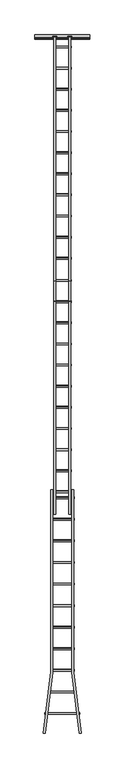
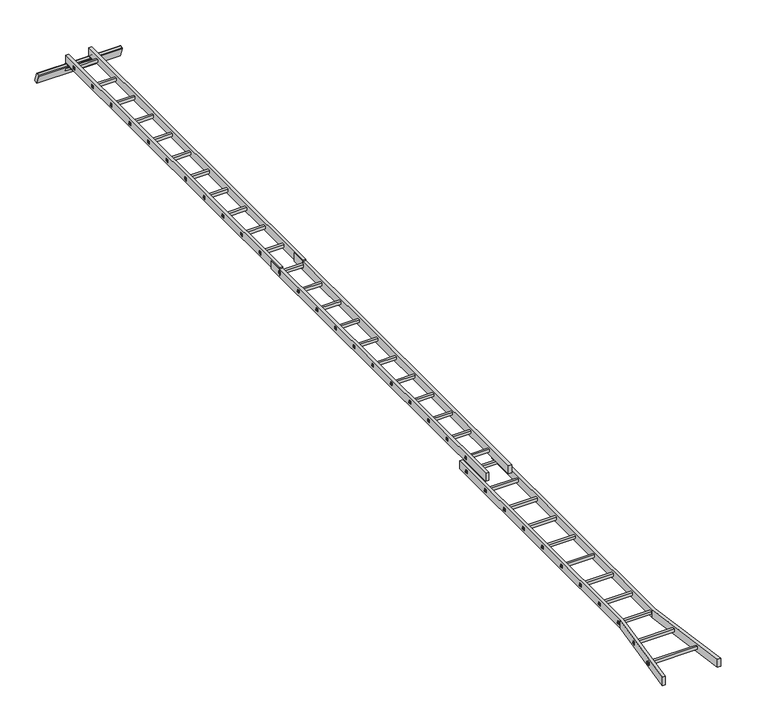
"""IFC4 building model written with IfcOpenShell, lengths in millimetres: proxy geometry, 9_Topaccess_Trap_3delige1 : 9_Topaccess_Trap_3delige1."""

from ifc_helpers import new_model, si_unit, point, frame, frame_2d, origin, place, context, project, spatial, polyline, circle_curve, trimmed, segment, composite_curve, outline, extrude, source, transform, mapped, element, save
from ifc_brep_helpers import plane_surface, cylinder_surface, advanced_brep


def generic_models_11501db7(model_context):
    return source(origin(), model_context, "Body", "SolidModel", [
        advanced_brep(
        [(415.7084157, 5443.0642979, 10.4304204), (415.7084157, 5480.6520028, 24.1112261), (415.7084157, 5444.9108978, 122.309105), (415.7084157, 5433.3754829, 127.6881573), (415.7084157, 5412.7022453, 120.1637141), (415.7084157, 5407.323193, 108.6282992), (-484.2915843, 5443.0642979, 10.4304204), (-484.2915843, 5407.323193, 108.6282992), (-484.2915843, 5412.7022453, 120.1637141), (-484.2915843, 5433.3754829, 127.6881573), (-484.2915843, 5444.9108978, 122.309105), (-484.2915843, 5480.6520028, 24.1112261), (118.0, 5462.6925349, 73.4544585), (118.0, 5448.1464663, 113.4194534), (59.0, 5448.1464663, 113.4194534), (59.0, 5462.6925349, 73.4544585), (-129.0, 5462.6925349, 73.4544585), (-129.0, 5448.1464663, 113.4194534), (-188.0, 5448.1464663, 113.4194534), (-188.0, 5462.6925349, 73.4544585), (118.0, 5410.5587615, 99.7386477), (118.0, 5425.1048301, 59.7736528), (59.0, 5425.1048301, 59.7736528), (59.0, 5410.5587615, 99.7386477), (-129.0, 5410.5587615, 99.7386477), (-129.0, 5425.1048301, 59.7736528), (-188.0, 5425.1048301, 59.7736528), (-188.0, 5410.5587615, 99.7386477)],
        [
            (0, 1),
            (1, 2),
            (2, 3, circle_curve(frame((415.7084157, 5436.4536642, 119.2309237), z_axis=(1.0, 0.0, 0.0), x_axis=(0.0, 1.0, 0.0)), 9.0)),
            (3, 4),
            (4, 5, circle_curve(frame((415.7084157, 5415.7804265, 111.7064805), z_axis=(1.0, 0.0, 0.0), x_axis=(0.0, 1.0, 0.0)), 9.0)),
            (5, 0),
            (6, 7),
            (7, 8, circle_curve(frame((-484.2915843, 5415.7804265, 111.7064805), z_axis=(-1.0, 0.0, 0.0), x_axis=(0.0, 1.0, 0.0)), 9.0)),
            (8, 9),
            (9, 10, circle_curve(frame((-484.2915843, 5436.4536642, 119.2309237), z_axis=(-1.0, 0.0, 0.0), x_axis=(0.0, 1.0, 0.0)), 9.0)),
            (10, 11),
            (11, 6),
            (0, 6),
            (11, 1),
            (10, 2),
            (12, 13),
            (13, 14),
            (14, 15),
            (15, 12),
            (16, 17),
            (17, 18),
            (18, 19),
            (19, 16),
            (3, 9),
            (8, 4),
            (5, 7),
            (20, 21),
            (21, 22),
            (22, 23),
            (23, 20),
            (24, 25),
            (25, 26),
            (26, 27),
            (27, 24),
            (20, 13),
            (12, 21),
            (22, 15),
            (14, 23),
            (24, 17),
            (16, 25),
            (26, 19),
            (18, 27),
        ],
        [
            plane_surface(frame((415.7084157, 5480.6520028, 24.1112261), z_axis=(1.0, 0.0, 0.0), x_axis=(0.0, 0.9396926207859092, 0.34202014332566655))),
            plane_surface(frame((-484.2915843, 5480.6520028, 24.1112261), z_axis=(-1.0, 0.0, 0.0), x_axis=(0.0, -0.9396926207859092, -0.34202014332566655))),
            plane_surface(frame((415.7084157, 5443.0642979, 10.4304204), z_axis=(0.0, 0.34202014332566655, -0.9396926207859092), x_axis=(-1.0, 0.0, 0.0))),
            plane_surface(frame((415.7084157, 5480.6520028, 24.1112261), z_axis=(0.0, 0.939692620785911, 0.3420201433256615), x_axis=(-1.0, 0.0, 0.0))),
            plane_surface(frame((415.7084157, 5433.3754829, 127.6881573), z_axis=(0.0, -0.34202014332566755, 0.9396926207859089), x_axis=(-1.0, 0.0, 0.0))),
            plane_surface(frame((415.7084157, 5407.323193, 108.6282992), z_axis=(0.0, -0.9396926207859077, -0.3420201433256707), x_axis=(-1.0, 0.0, 0.0))),
            cylinder_surface(frame((-484.2915843, 5436.4536642, 119.2309237), z_axis=(1.0, 0.0, 0.0), x_axis=(0.0, 1.0, 0.0)), 9.0),
            cylinder_surface(frame((-484.2915843, 5415.7804265, 111.7064805), z_axis=(1.0, 0.0, 0.0), x_axis=(0.0, 1.0, 0.0)), 9.0),
            plane_surface(frame((118.0, 5410.5587615, 99.7386477), z_axis=(-1.0, 0.0, 0.0), x_axis=(0.0, 0.3420201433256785, -0.9396926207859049))),
            plane_surface(frame((59.0, 5410.5587615, 99.7386477), z_axis=(1.0, 0.0, 0.0), x_axis=(0.0, -0.3420201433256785, 0.9396926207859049))),
            plane_surface(frame((118.0, 5425.1048301, 59.7736528), z_axis=(0.0, -0.3420201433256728, 0.939692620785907), x_axis=(-1.0, 0.0, 0.0))),
            plane_surface(frame((118.0, 5448.1464663, 113.4194534), z_axis=(0.0, 0.34202014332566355, -0.9396926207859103), x_axis=(-1.0, 0.0, 0.0))),
            plane_surface(frame((-129.0, 5440.3788291, 10.5922647), z_axis=(-1.0000000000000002, 0.0, 0.0), x_axis=(0.0, 0.3420201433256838, -0.939692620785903))),
            plane_surface(frame((-188.0, 5440.3788291, 10.5922647), z_axis=(1.0000000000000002, 0.0, 0.0), x_axis=(0.0, -0.3420201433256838, 0.939692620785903))),
            plane_surface(frame((-129.0, 5422.7855172, 58.9294919), z_axis=(0.0, -0.3420201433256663, 0.9396926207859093), x_axis=(-1.0, 0.0, 0.0))),
            plane_surface(frame((-129.0, 5448.1464663, 113.4194534), z_axis=(0.0, 0.34202014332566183, -0.9396926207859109), x_axis=(-1.0, 0.0, 0.0))),
        ],
        [
            (0, [[1, 2, 3, 4, 5, 6]]),
            (1, [[7, 8, 9, 10, 11, 12]]),
            (2, [[-1, 13, -12, 14]]),
            (3, [[-2, -14, -11, 15], [16, 17, 18, 19], [20, 21, 22, 23]]),
            (4, [[-4, 24, -9, 25]]),
            (5, [[-6, 26, -7, -13], [27, 28, 29, 30], [31, 32, 33, 34]]),
            (6, [[-3, -15, -10, -24]]),
            (7, [[-5, -25, -8, -26]]),
            (8, [[35, -16, 36, -27]]),
            (9, [[37, -18, 38, -29]]),
            (10, [[-36, -19, -37, -28]]),
            (11, [[-35, -30, -38, -17]]),
            (12, [[39, -20, 40, -31]]),
            (13, [[41, -22, 42, -33]]),
            (14, [[-40, -23, -41, -32]]),
            (15, [[-39, -34, -42, -21]]),
        ],
    ),
        extrude(outline(composite_curve([segment(polyline([(5434.6941242, 131.0), (5314.6941242, 131.0), (5314.6941242, 134.0), (5434.95576, 134.0)]), True, "CONTINUOUS"), segment(trimmed(circle_curve(frame_2d((5431.3850458, 112.9)), 21.4), [point((5434.95576, 134.0))], [point((5439.8359404, 93.2393189))], False, "CARTESIAN"), True, "CONTINUOUS"), segment(polyline([(5439.8359404, 93.2393189), (5411.4941242, 93.2393189), (5411.4941242, 96.2393189), (5439.1941242, 96.2393189)]), True, "CONTINUOUS"), segment(trimmed(circle_curve(frame_2d((5431.3850458, 112.9)), 18.4), [point((5439.1941242, 96.2393189))], [point((5434.6941242, 131.0))], True, "CARTESIAN"), True, "CONTINUOUS")], self_intersect=False)), frame((72.0, 0.0, 0.0), z_axis=(1.0, 0.0, 0.0), x_axis=(0.0, 1.0, 0.0)), (0.0, 0.0, 1.0), 33.0),
        extrude(outline(composite_curve([segment(polyline([(5314.6941242, 131.0), (5314.6941242, 134.0), (5434.95576, 134.0)]), True, "CONTINUOUS"), segment(trimmed(circle_curve(frame_2d((5431.3850458, 112.9)), 21.4), [point((5434.95576, 134.0))], [point((5439.8359404, 93.2393189))], False, "CARTESIAN"), True, "CONTINUOUS"), segment(polyline([(5439.8359404, 93.2393189), (5411.4941242, 93.2393189), (5411.4941242, 96.2393189), (5439.1941242, 96.2393189)]), True, "CONTINUOUS"), segment(trimmed(circle_curve(frame_2d((5431.3850458, 112.9)), 18.4), [point((5439.1941242, 96.2393189))], [point((5434.6941242, 131.0))], True, "CARTESIAN"), True, "CONTINUOUS"), segment(polyline([(5434.6941242, 131.0), (5314.6941242, 131.0)]), True, "CONTINUOUS")], self_intersect=False)), frame((-175.0, 0.0, 0.0), z_axis=(1.0, 0.0, 0.0), x_axis=(0.0, 1.0, 0.0)), (0.0, 0.0, 1.0), 33.0),
        extrude(outline(polyline([(1452.2473485, 187.5843884), (1456.8851961, 154.5843884), (1426.8851961, 154.5843884), (1426.8851961, 187.5843884), (1452.2473485, 187.5843884)]), holes=[polyline([(1431.8851961, 182.5843884), (1431.8851961, 159.5843884), (1451.133354, 159.5843884), (1447.9009148, 182.5843884), (1431.8851961, 182.5843884)])]), frame((-178.5831686, 0.0, 0.0), z_axis=(1.0, 0.0, 0.0), x_axis=(0.0, 1.0, 0.0)), (0.0, 0.0, 1.0), 288.5831686),
        extrude(outline(polyline([(1104.7473485, 187.5843884), (1109.3851961, 154.5843884), (1079.3851961, 154.5843884), (1079.3851961, 187.5843884), (1104.7473485, 187.5843884)]), holes=[polyline([(1084.3851961, 182.5843884), (1084.3851961, 159.5843884), (1103.633354, 159.5843884), (1100.4009148, 182.5843884), (1084.3851961, 182.5843884)])]), frame((-178.5831686, 0.0, 0.0), z_axis=(1.0, 0.0, 0.0), x_axis=(0.0, 1.0, 0.0)), (0.0, 0.0, 1.0), 288.5831686),
        extrude(outline(polyline([(757.2473485, 187.5843884), (761.8851961, 154.5843884), (731.8851961, 154.5843884), (731.8851961, 187.5843884), (757.2473485, 187.5843884)]), holes=[polyline([(736.8851961, 182.5843884), (736.8851961, 159.5843884), (756.133354, 159.5843884), (752.9009148, 182.5843884), (736.8851961, 182.5843884)])]), frame((-178.5831686, 0.0, 0.0), z_axis=(1.0, 0.0, 0.0), x_axis=(0.0, 1.0, 0.0)), (0.0, 0.0, 1.0), 288.5831686),
        extrude(outline(polyline([(409.7473485, 187.5843884), (414.3851961, 154.5843884), (384.3851961, 154.5843884), (384.3851961, 187.5843884), (409.7473485, 187.5843884)]), holes=[polyline([(389.3851961, 182.5843884), (389.3851961, 159.5843884), (408.633354, 159.5843884), (405.4009148, 182.5843884), (389.3851961, 182.5843884)])]), frame((-178.5831686, 0.0, 0.0), z_axis=(1.0, 0.0, 0.0), x_axis=(0.0, 1.0, 0.0)), (0.0, 0.0, 1.0), 288.5831686),
        extrude(outline(polyline([(62.2473485, 187.5843884), (66.8851961, 154.5843884), (36.8851961, 154.5843884), (36.8851961, 187.5843884), (62.2473485, 187.5843884)]), holes=[polyline([(41.8851961, 182.5843884), (41.8851961, 159.5843884), (61.133354, 159.5843884), (57.9009148, 182.5843884), (41.8851961, 182.5843884)])]), frame((-178.5831686, 0.0, 0.0), z_axis=(1.0, 0.0, 0.0), x_axis=(0.0, 1.0, 0.0)), (0.0, 0.0, 1.0), 288.5831686),
        extrude(outline(polyline([(-285.2526515, 187.5843884), (-280.6148039, 154.5843884), (-310.6148039, 154.5843884), (-310.6148039, 187.5843884), (-285.2526515, 187.5843884)]), holes=[polyline([(-305.6148039, 182.5843884), (-305.6148039, 159.5843884), (-286.366646, 159.5843884), (-289.5990852, 182.5843884), (-305.6148039, 182.5843884)])]), frame((-178.5831686, 0.0, 0.0), z_axis=(1.0, 0.0, 0.0), x_axis=(0.0, 1.0, 0.0)), (0.0, 0.0, 1.0), 288.5831686),
        extrude(outline(polyline([(-632.7526515, 187.5843884), (-628.1148039, 154.5843884), (-658.1148039, 154.5843884), (-658.1148039, 187.5843884), (-632.7526515, 187.5843884)]), holes=[polyline([(-653.1148039, 182.5843884), (-653.1148039, 159.5843884), (-633.866646, 159.5843884), (-637.0990852, 182.5843884), (-653.1148039, 182.5843884)])]), frame((-178.5831686, 0.0, 0.0), z_axis=(1.0, 0.0, 0.0), x_axis=(0.0, 1.0, 0.0)), (0.0, 0.0, 1.0), 288.5831686),
        extrude(outline(polyline([(-980.2526515, 187.5843884), (-975.6148039, 154.5843884), (-1005.6148039, 154.5843884), (-1005.6148039, 187.5843884), (-980.2526515, 187.5843884)]), holes=[polyline([(-1000.6148039, 182.5843884), (-1000.6148039, 159.5843884), (-981.366646, 159.5843884), (-984.5990852, 182.5843884), (-1000.6148039, 182.5843884)])]), frame((-178.5831686, 0.0, 0.0), z_axis=(1.0, 0.0, 0.0), x_axis=(0.0, 1.0, 0.0)), (0.0, 0.0, 1.0), 288.5831686),
        extrude(outline(polyline([(-1327.7526515, 187.5843884), (-1323.1148039, 154.5843884), (-1353.1148039, 154.5843884), (-1353.1148039, 187.5843884), (-1327.7526515, 187.5843884)]), holes=[polyline([(-1348.1148039, 182.5843884), (-1348.1148039, 159.5843884), (-1328.866646, 159.5843884), (-1332.0990852, 182.5843884), (-1348.1148039, 182.5843884)])]), frame((-178.5831686, 0.0, 0.0), z_axis=(1.0, 0.0, 0.0), x_axis=(0.0, 1.0, 0.0)), (0.0, 0.0, 1.0), 288.5831686),
        extrude(outline(polyline([(-1675.2526515, 187.5843884), (-1670.6148039, 154.5843884), (-1700.6148039, 154.5843884), (-1700.6148039, 187.5843884), (-1675.2526515, 187.5843884)]), holes=[polyline([(-1695.6148039, 182.5843884), (-1695.6148039, 159.5843884), (-1676.366646, 159.5843884), (-1679.5990852, 182.5843884), (-1695.6148039, 182.5843884)])]), frame((-178.5831686, 0.0, 0.0), z_axis=(1.0, 0.0, 0.0), x_axis=(0.0, 1.0, 0.0)), (0.0, 0.0, 1.0), 288.5831686),
        extrude(outline(polyline([(-142.0, 1600.0889459), (-142.0, -2399.9110541), (-175.0, -2399.9110541), (-175.0, 1600.0889459), (-142.0, 1600.0889459)])), frame((0.0, 0.0, 120.0), z_axis=(0.0, 0.0, 1.0), x_axis=(1.0, 0.0, 0.0)), (0.0, 0.0, 1.0), 92.0),
        extrude(outline(polyline([(105.0, 1600.0889459), (105.0, -2399.9110541), (72.0, -2399.9110541), (72.0, 1600.0889459), (105.0, 1600.0889459)])), frame((0.0, 0.0, 120.0), z_axis=(0.0, 0.0, 1.0), x_axis=(1.0, 0.0, 0.0)), (0.0, 0.0, 1.0), 92.0),
        extrude(outline(polyline([(-142.0, 5440.65576), (-142.0, 1440.65576), (-175.0, 1440.65576), (-175.0, 5440.65576), (-142.0, 5440.65576)])), frame((0.0, 0.0, 134.0), z_axis=(0.0, 0.0, 1.0), x_axis=(1.0, 0.0, 0.0)), (0.0, 0.0, 1.0), 90.0),
        extrude(outline(polyline([(105.0, 5440.65576), (105.0, 1440.65576), (72.0, 1440.65576), (72.0, 5440.65576), (105.0, 5440.65576)])), frame((0.0, 0.0, 134.0), z_axis=(0.0, 0.0, 1.0), x_axis=(1.0, 0.0, 0.0)), (0.0, 0.0, 1.0), 90.0),
        extrude(outline(polyline([(5292.8141626, 192.5843884), (5297.4520102, 159.5843884), (5267.4520102, 159.5843884), (5267.4520102, 192.5843884), (5292.8141626, 192.5843884)]), holes=[polyline([(5272.4520102, 187.5843884), (5272.4520102, 164.5843884), (5291.7001681, 164.5843884), (5288.467729, 187.5843884), (5272.4520102, 187.5843884)])]), frame((-178.5831686, 0.0, 0.0), z_axis=(1.0, 0.0, 0.0), x_axis=(0.0, 1.0, 0.0)), (0.0, 0.0, 1.0), 288.5831686),
        extrude(outline(polyline([(4945.3141626, 192.5843884), (4949.9520102, 159.5843884), (4919.9520102, 159.5843884), (4919.9520102, 192.5843884), (4945.3141626, 192.5843884)]), holes=[polyline([(4924.9520102, 187.5843884), (4924.9520102, 164.5843884), (4944.2001681, 164.5843884), (4940.967729, 187.5843884), (4924.9520102, 187.5843884)])]), frame((-178.5831686, 0.0, 0.0), z_axis=(1.0, 0.0, 0.0), x_axis=(0.0, 1.0, 0.0)), (0.0, 0.0, 1.0), 288.5831686),
        extrude(outline(polyline([(4597.8141626, 192.5843884), (4602.4520102, 159.5843884), (4572.4520102, 159.5843884), (4572.4520102, 192.5843884), (4597.8141626, 192.5843884)]), holes=[polyline([(4577.4520102, 187.5843884), (4577.4520102, 164.5843884), (4596.7001681, 164.5843884), (4593.467729, 187.5843884), (4577.4520102, 187.5843884)])]), frame((-178.5831686, 0.0, 0.0), z_axis=(1.0, 0.0, 0.0), x_axis=(0.0, 1.0, 0.0)), (0.0, 0.0, 1.0), 288.5831686),
        extrude(outline(polyline([(4250.3141626, 192.5843884), (4254.9520102, 159.5843884), (4224.9520102, 159.5843884), (4224.9520102, 192.5843884), (4250.3141626, 192.5843884)]), holes=[polyline([(4229.9520102, 187.5843884), (4229.9520102, 164.5843884), (4249.2001681, 164.5843884), (4245.967729, 187.5843884), (4229.9520102, 187.5843884)])]), frame((-178.5831686, 0.0, 0.0), z_axis=(1.0, 0.0, 0.0), x_axis=(0.0, 1.0, 0.0)), (0.0, 0.0, 1.0), 288.5831686),
        extrude(outline(polyline([(3902.8141626, 192.5843884), (3907.4520102, 159.5843884), (3877.4520102, 159.5843884), (3877.4520102, 192.5843884), (3902.8141626, 192.5843884)]), holes=[polyline([(3882.4520102, 187.5843884), (3882.4520102, 164.5843884), (3901.7001681, 164.5843884), (3898.467729, 187.5843884), (3882.4520102, 187.5843884)])]), frame((-178.5831686, 0.0, 0.0), z_axis=(1.0, 0.0, 0.0), x_axis=(0.0, 1.0, 0.0)), (0.0, 0.0, 1.0), 288.5831686),
        extrude(outline(polyline([(3555.3141626, 192.5843884), (3559.9520102, 159.5843884), (3529.9520102, 159.5843884), (3529.9520102, 192.5843884), (3555.3141626, 192.5843884)]), holes=[polyline([(3534.9520102, 187.5843884), (3534.9520102, 164.5843884), (3554.2001681, 164.5843884), (3550.967729, 187.5843884), (3534.9520102, 187.5843884)])]), frame((-178.5831686, 0.0, 0.0), z_axis=(1.0, 0.0, 0.0), x_axis=(0.0, 1.0, 0.0)), (0.0, 0.0, 1.0), 288.5831686),
        extrude(outline(polyline([(3207.8141626, 192.5843884), (3212.4520102, 159.5843884), (3182.4520102, 159.5843884), (3182.4520102, 192.5843884), (3207.8141626, 192.5843884)]), holes=[polyline([(3187.4520102, 187.5843884), (3187.4520102, 164.5843884), (3206.7001681, 164.5843884), (3203.467729, 187.5843884), (3187.4520102, 187.5843884)])]), frame((-178.5831686, 0.0, 0.0), z_axis=(1.0, 0.0, 0.0), x_axis=(0.0, 1.0, 0.0)), (0.0, 0.0, 1.0), 288.5831686),
        extrude(outline(polyline([(2860.3141626, 192.5843884), (2864.9520102, 159.5843884), (2834.9520102, 159.5843884), (2834.9520102, 192.5843884), (2860.3141626, 192.5843884)]), holes=[polyline([(2839.9520102, 187.5843884), (2839.9520102, 164.5843884), (2859.2001681, 164.5843884), (2855.967729, 187.5843884), (2839.9520102, 187.5843884)])]), frame((-178.5831686, 0.0, 0.0), z_axis=(1.0, 0.0, 0.0), x_axis=(0.0, 1.0, 0.0)), (0.0, 0.0, 1.0), 288.5831686),
        extrude(outline(polyline([(2512.8141626, 192.5843884), (2517.4520102, 159.5843884), (2487.4520102, 159.5843884), (2487.4520102, 192.5843884), (2512.8141626, 192.5843884)]), holes=[polyline([(2492.4520102, 187.5843884), (2492.4520102, 164.5843884), (2511.7001681, 164.5843884), (2508.467729, 187.5843884), (2492.4520102, 187.5843884)])]), frame((-178.5831686, 0.0, 0.0), z_axis=(1.0, 0.0, 0.0), x_axis=(0.0, 1.0, 0.0)), (0.0, 0.0, 1.0), 288.5831686),
        extrude(outline(polyline([(2165.3141626, 192.5843884), (2169.9520102, 159.5843884), (2139.9520102, 159.5843884), (2139.9520102, 192.5843884), (2165.3141626, 192.5843884)]), holes=[polyline([(2144.9520102, 187.5843884), (2144.9520102, 164.5843884), (2164.2001681, 164.5843884), (2160.967729, 187.5843884), (2144.9520102, 187.5843884)])]), frame((-178.5831686, 0.0, 0.0), z_axis=(1.0, 0.0, 0.0), x_axis=(0.0, 1.0, 0.0)), (0.0, 0.0, 1.0), 288.5831686),
        extrude(outline(polyline([(1817.8141626, 192.5843884), (1822.4520102, 159.5843884), (1792.4520102, 159.5843884), (1792.4520102, 192.5843884), (1817.8141626, 192.5843884)]), holes=[polyline([(1797.4520102, 187.5843884), (1797.4520102, 164.5843884), (1816.7001681, 164.5843884), (1813.467729, 187.5843884), (1797.4520102, 187.5843884)])]), frame((-178.5831686, 0.0, 0.0), z_axis=(1.0, 0.0, 0.0), x_axis=(0.0, 1.0, 0.0)), (0.0, 0.0, 1.0), 288.5831686),
        extrude(outline(polyline([(-2118.0141431, 101.5843884), (-2113.3762956, 68.5843884), (-2143.3762956, 68.5843884), (-2143.3762956, 101.5843884), (-2118.0141431, 101.5843884)]), holes=[polyline([(-2138.3762956, 96.5843884), (-2138.3762956, 73.5843884), (-2119.1281376, 73.5843884), (-2122.3605768, 96.5843884), (-2138.3762956, 96.5843884)])]), frame((-227.0772918, 0.0, 0.0), z_axis=(1.0, 0.0, 0.0), x_axis=(0.0, 1.0, 0.0)), (0.0, 0.0, 1.0), 389.0772918),
        extrude(outline(polyline([(-2473.0141431, 101.5843884), (-2468.3762956, 68.5843884), (-2498.3762956, 68.5843884), (-2498.3762956, 101.5843884), (-2473.0141431, 101.5843884)]), holes=[polyline([(-2493.3762956, 96.5843884), (-2493.3762956, 73.5843884), (-2474.1281376, 73.5843884), (-2477.3605768, 96.5843884), (-2493.3762956, 96.5843884)])]), frame((-227.0772918, 0.0, 0.0), z_axis=(1.0, 0.0, 0.0), x_axis=(0.0, 1.0, 0.0)), (0.0, 0.0, 1.0), 389.0772918),
        extrude(outline(polyline([(-2828.0141431, 101.5843884), (-2823.3762956, 68.5843884), (-2853.3762956, 68.5843884), (-2853.3762956, 101.5843884), (-2828.0141431, 101.5843884)]), holes=[polyline([(-2848.3762956, 96.5843884), (-2848.3762956, 73.5843884), (-2829.1281376, 73.5843884), (-2832.3605768, 96.5843884), (-2848.3762956, 96.5843884)])]), frame((-227.0772918, 0.0, 0.0), z_axis=(1.0, 0.0, 0.0), x_axis=(0.0, 1.0, 0.0)), (0.0, 0.0, 1.0), 389.0772918),
        extrude(outline(polyline([(-2022.7526515, 187.5843884), (-2018.1148039, 154.5843884), (-2048.1148039, 154.5843884), (-2048.1148039, 187.5843884), (-2022.7526515, 187.5843884)]), holes=[polyline([(-2043.1148039, 182.5843884), (-2043.1148039, 159.5843884), (-2023.866646, 159.5843884), (-2027.0990852, 182.5843884), (-2043.1148039, 182.5843884)])]), frame((-178.5831686, 0.0, 0.0), z_axis=(1.0, 0.0, 0.0), x_axis=(0.0, 1.0, 0.0)), (0.0, 0.0, 1.0), 288.5831686),
        extrude(outline(polyline([(-3183.0141431, 101.5843884), (-3178.3762956, 68.5843884), (-3208.3762956, 68.5843884), (-3208.3762956, 101.5843884), (-3183.0141431, 101.5843884)]), holes=[polyline([(-3203.3762956, 96.5843884), (-3203.3762956, 73.5843884), (-3184.1281376, 73.5843884), (-3187.3605768, 96.5843884), (-3203.3762956, 96.5843884)])]), frame((-227.0772918, 0.0, 0.0), z_axis=(1.0, 0.0, 0.0), x_axis=(0.0, 1.0, 0.0)), (0.0, 0.0, 1.0), 389.0772918),
        extrude(outline(polyline([(-3538.0141431, 101.5843884), (-3533.3762956, 68.5843884), (-3563.3762956, 68.5843884), (-3563.3762956, 101.5843884), (-3538.0141431, 101.5843884)]), holes=[polyline([(-3558.3762956, 96.5843884), (-3558.3762956, 73.5843884), (-3539.1281376, 73.5843884), (-3542.3605768, 96.5843884), (-3558.3762956, 96.5843884)])]), frame((-227.0772918, 0.0, 0.0), z_axis=(1.0, 0.0, 0.0), x_axis=(0.0, 1.0, 0.0)), (0.0, 0.0, 1.0), 389.0772918),
        extrude(outline(polyline([(-3893.0141431, 101.5843884), (-3888.3762956, 68.5843884), (-3918.3762956, 68.5843884), (-3918.3762956, 101.5843884), (-3893.0141431, 101.5843884)]), holes=[polyline([(-3913.3762956, 96.5843884), (-3913.3762956, 73.5843884), (-3894.1281376, 73.5843884), (-3897.3605768, 96.5843884), (-3913.3762956, 96.5843884)])]), frame((-227.0772918, 0.0, 0.0), z_axis=(1.0, 0.0, 0.0), x_axis=(0.0, 1.0, 0.0)), (0.0, 0.0, 1.0), 389.0772918),
        extrude(outline(polyline([(-4248.0141431, 101.5843884), (-4243.3762956, 68.5843884), (-4273.3762956, 68.5843884), (-4273.3762956, 101.5843884), (-4248.0141431, 101.5843884)]), holes=[polyline([(-4268.3762956, 96.5843884), (-4268.3762956, 73.5843884), (-4249.1281376, 73.5843884), (-4252.3605768, 96.5843884), (-4268.3762956, 96.5843884)])]), frame((-227.0772918, 0.0, 0.0), z_axis=(1.0, 0.0, 0.0), x_axis=(0.0, 1.0, 0.0)), (0.0, 0.0, 1.0), 389.0772918),
        extrude(outline(polyline([(-4603.0141431, 101.5843884), (-4598.3762956, 68.5843884), (-4628.3762956, 68.5843884), (-4628.3762956, 101.5843884), (-4603.0141431, 101.5843884)]), holes=[polyline([(-4623.3762956, 96.5843884), (-4623.3762956, 73.5843884), (-4604.1281376, 73.5843884), (-4607.3605768, 96.5843884), (-4623.3762956, 96.5843884)])]), frame((-227.0772918, 0.0, 0.0), z_axis=(1.0, 0.0, 0.0), x_axis=(0.0, 1.0, 0.0)), (0.0, 0.0, 1.0), 389.0772918),
        extrude(outline(polyline([(-4958.0141431, 101.5843884), (-4953.3762956, 68.5843884), (-4983.3762956, 68.5843884), (-4983.3762956, 101.5843884), (-4958.0141431, 101.5843884)]), holes=[polyline([(-4978.3762956, 96.5843884), (-4978.3762956, 73.5843884), (-4959.1281376, 73.5843884), (-4962.3605768, 96.5843884), (-4978.3762956, 96.5843884)])]), frame((-227.0772918, 0.0, 0.0), z_axis=(1.0, 0.0, 0.0), x_axis=(0.0, 1.0, 0.0)), (0.0, 0.0, 1.0), 389.0772918),
        extrude(outline(polyline([(-5313.0141431, 101.5843884), (-5308.3762956, 68.5843884), (-5338.3762956, 68.5843884), (-5338.3762956, 101.5843884), (-5313.0141431, 101.5843884)]), holes=[polyline([(-5333.3762956, 96.5843884), (-5333.3762956, 73.5843884), (-5314.1281376, 73.5843884), (-5317.3605768, 96.5843884), (-5333.3762956, 96.5843884)])]), frame((-266.0001215, 0.0, 0.0), z_axis=(1.0, 0.0, 0.0), x_axis=(0.0, 1.0, 0.0)), (0.0, 0.0, 1.0), 465.0001215),
        extrude(outline(polyline([(-5668.0141431, 101.5843884), (-5663.3762956, 68.5843884), (-5693.3762956, 68.5843884), (-5693.3762956, 101.5843884), (-5668.0141431, 101.5843884)]), holes=[polyline([(-5688.3762956, 96.5843884), (-5688.3762956, 73.5843884), (-5669.1281376, 73.5843884), (-5672.3605768, 96.5843884), (-5688.3762956, 96.5843884)])]), frame((-323.9517116, 0.0, 0.0), z_axis=(1.0, 0.0, 0.0), x_axis=(0.0, 1.0, 0.0)), (0.0, 0.0, 1.0), 580.3455357),
        extrude(outline(polyline([(-223.0, -4994.2552941), (-223.0, -1999.2552941), (-190.0, -1999.2552941), (-190.0, -4996.2736606), (-313.1506595, -5999.2552941), (-346.3984837, -5999.2552941), (-223.0, -4994.2552941)])), frame((0.0, 0.0, 35.5), z_axis=(0.0, 0.0, 1.0), x_axis=(1.0, 0.0, 0.0)), (0.0, 0.0, 1.0), 92.0),
        extrude(outline(polyline([(124.0, -4996.2736606), (124.0, -1999.2552941), (157.0, -1999.2552941), (157.0, -4996.2736606), (280.3984837, -5999.2552941), (247.1506595, -5999.2552941), (124.0, -4996.2736606)])), frame((0.0, 0.0, 35.5), z_axis=(0.0, 0.0, 1.0), x_axis=(1.0, 0.0, 0.0)), (0.0, 0.0, 1.0), 92.0),
    ])


if __name__ == "__main__":
    model = new_model("IFC4")
    model_context = context("Model", 3, world=origin())
    ifc_project = project(units=[si_unit("LENGTHUNIT", "METRE", prefix="MILLI")], contexts=[model_context])
    site = spatial("IfcSite", under=ifc_project)
    building = spatial("IfcBuilding", under=site)
    placement = place(None, origin())
    generic_models_shape = generic_models_11501db7(model_context)
    element("IfcBuildingElementProxy", 1, Name="9_Topaccess_Trap_3delige1 : 9_Topaccess_Trap_3delige1", ObjectType="9_Topaccess_Trap_3delige1 : 9_Topaccess_Trap_3delige1", at=placement, inside=building, context=model_context, shape_type="MappedRepresentation", body=[
        mapped(generic_models_shape, transform((0.0, 0.0, 0.0), x_axis=(1.0, 0.0, 0.0), y_axis=(0.0, 1.0, 0.0), z_axis=(0.0, 0.0, 1.0))),
    ])
    save(model, "model.ifc")
